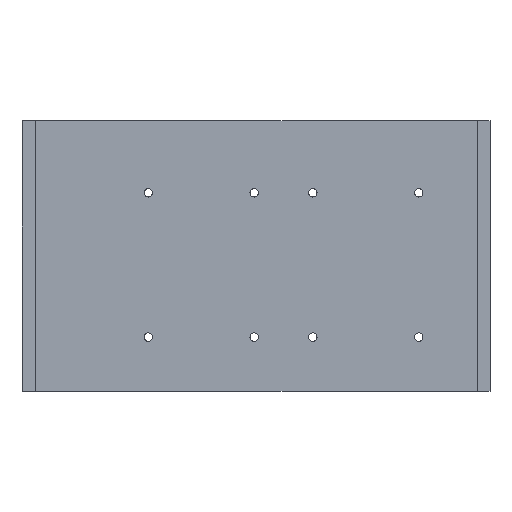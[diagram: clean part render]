
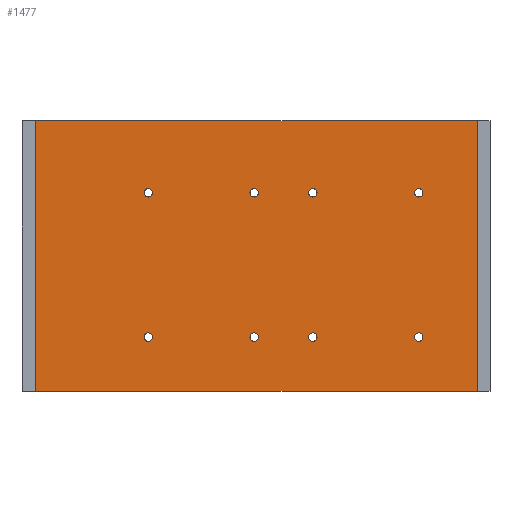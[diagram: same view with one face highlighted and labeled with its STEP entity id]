
A CAD part, top view. The second image highlights one B-rep face of the part: STEP entity #1477.
In plain terms, the highlighted planar face has unit normal (0, 0, 1).
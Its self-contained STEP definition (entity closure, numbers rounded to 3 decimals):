
#39=CIRCLE('',#1578,1.875);
#40=CIRCLE('',#1580,1.875);
#41=CIRCLE('',#1582,1.875);
#42=CIRCLE('',#1584,1.875);
#43=CIRCLE('',#1586,1.875);
#44=CIRCLE('',#1588,1.875);
#45=CIRCLE('',#1590,1.875);
#46=CIRCLE('',#1592,1.875);
#94=FACE_BOUND('',#277,.T.);
#95=FACE_BOUND('',#278,.T.);
#96=FACE_BOUND('',#279,.T.);
#97=FACE_BOUND('',#280,.T.);
#98=FACE_BOUND('',#281,.T.);
#99=FACE_BOUND('',#282,.T.);
#100=FACE_BOUND('',#283,.T.);
#101=FACE_BOUND('',#284,.T.);
#170=FACE_OUTER_BOUND('',#276,.T.);
#276=EDGE_LOOP('',(#1276,#1277,#1278,#1279));
#277=EDGE_LOOP('',(#1280));
#278=EDGE_LOOP('',(#1281));
#279=EDGE_LOOP('',(#1282));
#280=EDGE_LOOP('',(#1283));
#281=EDGE_LOOP('',(#1284));
#282=EDGE_LOOP('',(#1285));
#283=EDGE_LOOP('',(#1286));
#284=EDGE_LOOP('',(#1287));
#435=LINE('',#2367,#599);
#436=LINE('',#2370,#600);
#437=LINE('',#2372,#601);
#438=LINE('',#2373,#602);
#599=VECTOR('',#1960,10.);
#600=VECTOR('',#1963,10.);
#601=VECTOR('',#1964,10.);
#602=VECTOR('',#1965,10.);
#710=VERTEX_POINT('',#2273);
#711=VERTEX_POINT('',#2277);
#712=VERTEX_POINT('',#2281);
#713=VERTEX_POINT('',#2285);
#714=VERTEX_POINT('',#2289);
#715=VERTEX_POINT('',#2293);
#716=VERTEX_POINT('',#2297);
#717=VERTEX_POINT('',#2301);
#740=VERTEX_POINT('',#2363);
#741=VERTEX_POINT('',#2365);
#742=VERTEX_POINT('',#2369);
#743=VERTEX_POINT('',#2371);
#883=EDGE_CURVE('',#710,#710,#39,.T.);
#885=EDGE_CURVE('',#711,#711,#40,.T.);
#887=EDGE_CURVE('',#712,#712,#41,.T.);
#889=EDGE_CURVE('',#713,#713,#42,.T.);
#891=EDGE_CURVE('',#714,#714,#43,.T.);
#893=EDGE_CURVE('',#715,#715,#44,.T.);
#895=EDGE_CURVE('',#716,#716,#45,.T.);
#897=EDGE_CURVE('',#717,#717,#46,.T.);
#929=EDGE_CURVE('',#740,#741,#435,.T.);
#930=EDGE_CURVE('',#740,#742,#436,.T.);
#931=EDGE_CURVE('',#743,#741,#437,.T.);
#932=EDGE_CURVE('',#742,#743,#438,.T.);
#1276=ORIENTED_EDGE('',*,*,#930,.F.);
#1277=ORIENTED_EDGE('',*,*,#929,.T.);
#1278=ORIENTED_EDGE('',*,*,#931,.F.);
#1279=ORIENTED_EDGE('',*,*,#932,.F.);
#1280=ORIENTED_EDGE('',*,*,#883,.T.);
#1281=ORIENTED_EDGE('',*,*,#885,.T.);
#1282=ORIENTED_EDGE('',*,*,#887,.T.);
#1283=ORIENTED_EDGE('',*,*,#889,.T.);
#1284=ORIENTED_EDGE('',*,*,#891,.T.);
#1285=ORIENTED_EDGE('',*,*,#893,.T.);
#1286=ORIENTED_EDGE('',*,*,#895,.T.);
#1287=ORIENTED_EDGE('',*,*,#897,.T.);
#1399=PLANE('',#1603);
#1477=ADVANCED_FACE('',(#170,#94,#95,#96,#97,#98,#99,#100,#101),#1399,.T.);
#1578=AXIS2_PLACEMENT_3D('',#2275,#1874,#1875);
#1580=AXIS2_PLACEMENT_3D('',#2279,#1879,#1880);
#1582=AXIS2_PLACEMENT_3D('',#2283,#1884,#1885);
#1584=AXIS2_PLACEMENT_3D('',#2287,#1889,#1890);
#1586=AXIS2_PLACEMENT_3D('',#2291,#1894,#1895);
#1588=AXIS2_PLACEMENT_3D('',#2295,#1899,#1900);
#1590=AXIS2_PLACEMENT_3D('',#2299,#1904,#1905);
#1592=AXIS2_PLACEMENT_3D('',#2303,#1909,#1910);
#1603=AXIS2_PLACEMENT_3D('',#2368,#1961,#1962);
#1874=DIRECTION('center_axis',(0.,0.,-1.));
#1875=DIRECTION('ref_axis',(-1.,0.,0.));
#1879=DIRECTION('center_axis',(0.,0.,-1.));
#1880=DIRECTION('ref_axis',(-1.,0.,0.));
#1884=DIRECTION('center_axis',(0.,0.,-1.));
#1885=DIRECTION('ref_axis',(-1.,0.,0.));
#1889=DIRECTION('center_axis',(0.,0.,-1.));
#1890=DIRECTION('ref_axis',(-1.,0.,0.));
#1894=DIRECTION('center_axis',(0.,0.,-1.));
#1895=DIRECTION('ref_axis',(-1.,0.,0.));
#1899=DIRECTION('center_axis',(0.,0.,-1.));
#1900=DIRECTION('ref_axis',(-1.,0.,0.));
#1904=DIRECTION('center_axis',(0.,0.,-1.));
#1905=DIRECTION('ref_axis',(-1.,0.,0.));
#1909=DIRECTION('center_axis',(0.,0.,-1.));
#1910=DIRECTION('ref_axis',(-1.,0.,0.));
#1960=DIRECTION('',(0.,1.,0.));
#1961=DIRECTION('center_axis',(0.,0.,1.));
#1962=DIRECTION('ref_axis',(1.,0.,0.));
#1963=DIRECTION('',(-1.,0.,0.));
#1964=DIRECTION('',(1.,0.,0.));
#1965=DIRECTION('',(0.,1.,0.));
#2273=CARTESIAN_POINT('',(51.875,88.,0.));
#2275=CARTESIAN_POINT('Origin',(50.,88.,0.));
#2277=CARTESIAN_POINT('',(124.875,24.,0.));
#2279=CARTESIAN_POINT('Origin',(123.,24.,0.));
#2281=CARTESIAN_POINT('',(124.875,88.,0.));
#2283=CARTESIAN_POINT('Origin',(123.,88.,0.));
#2285=CARTESIAN_POINT('',(51.875,24.,0.));
#2287=CARTESIAN_POINT('Origin',(50.,24.,0.));
#2289=CARTESIAN_POINT('',(98.875,88.,0.));
#2291=CARTESIAN_POINT('Origin',(97.,88.,0.));
#2293=CARTESIAN_POINT('',(171.875,24.,0.));
#2295=CARTESIAN_POINT('Origin',(170.,24.,0.));
#2297=CARTESIAN_POINT('',(171.875,88.,0.));
#2299=CARTESIAN_POINT('Origin',(170.,88.,0.));
#2301=CARTESIAN_POINT('',(98.875,24.,0.));
#2303=CARTESIAN_POINT('Origin',(97.,24.,0.));
#2363=CARTESIAN_POINT('',(196.,0.,0.));
#2365=CARTESIAN_POINT('',(196.,120.,0.));
#2367=CARTESIAN_POINT('',(196.,0.,0.));
#2368=CARTESIAN_POINT('Origin',(0.,0.,0.));
#2369=CARTESIAN_POINT('',(0.,0.,0.));
#2370=CARTESIAN_POINT('',(4.,0.,0.));
#2371=CARTESIAN_POINT('',(0.,120.,0.));
#2372=CARTESIAN_POINT('',(4.,120.,0.));
#2373=CARTESIAN_POINT('',(0.,0.,0.));
